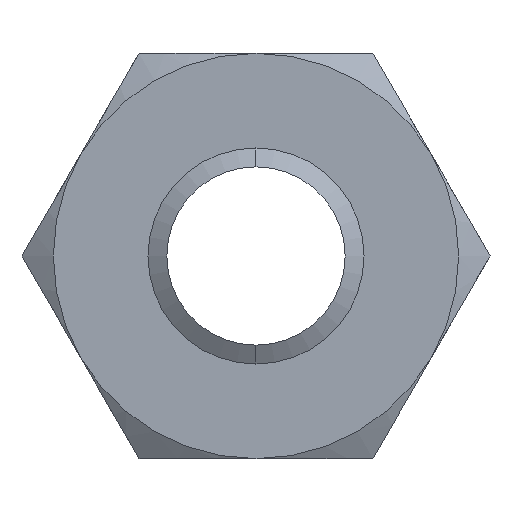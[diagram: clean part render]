
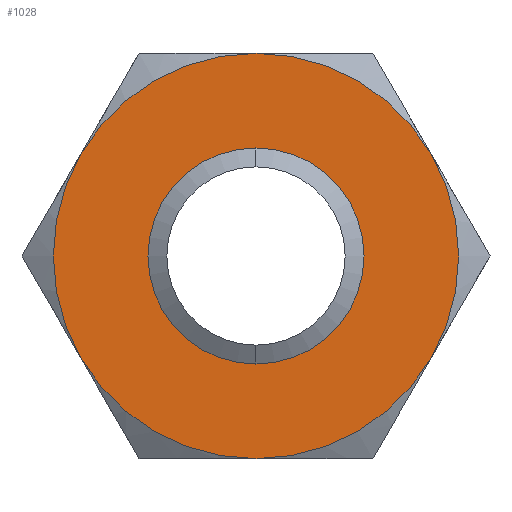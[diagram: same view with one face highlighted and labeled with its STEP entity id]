
A CAD part, front view. The second image highlights one B-rep face of the part: STEP entity #1028.
In plain terms, the highlighted planar face has unit normal (0, -1, 0).
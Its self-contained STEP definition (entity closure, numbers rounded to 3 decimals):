
#410 = CARTESIAN_POINT ( 'NONE',  ( -32.476, 0., 18.75 ) ) ;
#414 = CARTESIAN_POINT ( 'NONE',  ( 0., 0., -37.5 ) ) ;
#444 = DIRECTION ( 'NONE',  ( 0., 1., 0. ) ) ;
#445 = CARTESIAN_POINT ( 'NONE',  ( 0., 0., 0. ) ) ;
#446 = AXIS2_PLACEMENT_3D ( 'NONE', #445, #444, #506 ) ;
#447 = CIRCLE ( 'NONE', #446, 37.5 ) ;
#449 = CARTESIAN_POINT ( 'NONE',  ( 32.476, 0., 18.75 ) ) ;
#456 = DIRECTION ( 'NONE',  ( 0., 0., 1. ) ) ;
#457 = DIRECTION ( 'NONE',  ( 0., 1., 0. ) ) ;
#458 = CARTESIAN_POINT ( 'NONE',  ( 0., 0., 0. ) ) ;
#459 = AXIS2_PLACEMENT_3D ( 'NONE', #458, #457, #456 ) ;
#460 = CIRCLE ( 'NONE', #459, 37.5 ) ;
#461 = CARTESIAN_POINT ( 'NONE',  ( 0., 0., 37.5 ) ) ;
#472 = DIRECTION ( 'NONE',  ( 0., 0., 1. ) ) ;
#473 = DIRECTION ( 'NONE',  ( 0., 1., 0. ) ) ;
#474 = CARTESIAN_POINT ( 'NONE',  ( 0., 0., 0. ) ) ;
#475 = AXIS2_PLACEMENT_3D ( 'NONE', #474, #473, #472 ) ;
#476 = CIRCLE ( 'NONE', #475, 37.5 ) ;
#494 = CARTESIAN_POINT ( 'NONE',  ( 0., 0., -16.5 ) ) ;
#495 = DIRECTION ( 'NONE',  ( 0., 0., -1. ) ) ;
#496 = DIRECTION ( 'NONE',  ( 0., -1., 0. ) ) ;
#497 = CARTESIAN_POINT ( 'NONE',  ( 0., 0., 0. ) ) ;
#498 = AXIS2_PLACEMENT_3D ( 'NONE', #497, #496, #495 ) ;
#499 = CIRCLE ( 'NONE', #498, 16.5 ) ;
#504 = CARTESIAN_POINT ( 'NONE',  ( 0., 0., 16.5 ) ) ;
#506 = DIRECTION ( 'NONE',  ( 0., 0., 1. ) ) ;
#542 = DIRECTION ( 'NONE',  ( 0., 0., 1. ) ) ;
#543 = DIRECTION ( 'NONE',  ( 0., 1., 0. ) ) ;
#544 = CARTESIAN_POINT ( 'NONE',  ( 0., 0., 0. ) ) ;
#545 = AXIS2_PLACEMENT_3D ( 'NONE', #544, #543, #542 ) ;
#546 = CIRCLE ( 'NONE', #545, 37.5 ) ;
#550 = CARTESIAN_POINT ( 'NONE',  ( -32.476, 0., -18.75 ) ) ;
#551 = DIRECTION ( 'NONE',  ( 0., 0., 1. ) ) ;
#552 = DIRECTION ( 'NONE',  ( 0., 1., 0. ) ) ;
#553 = CARTESIAN_POINT ( 'NONE',  ( 0., 0., 0. ) ) ;
#554 = AXIS2_PLACEMENT_3D ( 'NONE', #553, #552, #551 ) ;
#555 = CIRCLE ( 'NONE', #554, 37.5 ) ;
#556 = DIRECTION ( 'NONE',  ( 0., 0., 1. ) ) ;
#557 = DIRECTION ( 'NONE',  ( 0., 1., 0. ) ) ;
#558 = CARTESIAN_POINT ( 'NONE',  ( 0., 0., 0. ) ) ;
#559 = AXIS2_PLACEMENT_3D ( 'NONE', #558, #557, #556 ) ;
#560 = CIRCLE ( 'NONE', #559, 37.5 ) ;
#561 = CARTESIAN_POINT ( 'NONE',  ( 32.476, 0., -18.75 ) ) ;
#634 = DIRECTION ( 'NONE',  ( 0., 0., -1. ) ) ;
#635 = DIRECTION ( 'NONE',  ( 0., -1., 0. ) ) ;
#636 = CARTESIAN_POINT ( 'NONE',  ( 0., 0., 0. ) ) ;
#637 = AXIS2_PLACEMENT_3D ( 'NONE', #636, #635, #634 ) ;
#638 = DIRECTION ( 'NONE',  ( 0., 0., 1. ) ) ;
#639 = DIRECTION ( 'NONE',  ( 0., 1., 0. ) ) ;
#640 = CARTESIAN_POINT ( 'NONE',  ( 21.651, 0., -37.5 ) ) ;
#641 = CIRCLE ( 'NONE', #637, 16.5 ) ;
#642 = AXIS2_PLACEMENT_3D ( 'NONE', #640, #639, #638 ) ;
#643 = PLANE ( 'NONE',  #642 ) ;
#644 = FACE_BOUND ( 'NONE', #1026, .T. ) ;
#645 = FACE_OUTER_BOUND ( 'NONE', #942, .T. ) ;
#932 = VERTEX_POINT ( 'NONE', #414 ) ;
#933 = VERTEX_POINT ( 'NONE', #410 ) ;
#934 = ORIENTED_EDGE ( 'NONE', *, *, #935, .F. ) ;
#935 = EDGE_CURVE ( 'NONE', #984, #933, #476, .T. ) ;
#942 = EDGE_LOOP ( 'NONE', ( #943, #949, #934, #985, #978, #982 ) ) ;
#943 = ORIENTED_EDGE ( 'NONE', *, *, #944, .F. ) ;
#944 = EDGE_CURVE ( 'NONE', #945, #948, #460, .T. ) ;
#945 = VERTEX_POINT ( 'NONE', #461 ) ;
#948 = VERTEX_POINT ( 'NONE', #449 ) ;
#949 = ORIENTED_EDGE ( 'NONE', *, *, #950, .F. ) ;
#950 = EDGE_CURVE ( 'NONE', #933, #945, #447, .T. ) ;
#956 = VERTEX_POINT ( 'NONE', #504 ) ;
#957 = EDGE_CURVE ( 'NONE', #956, #962, #499, .T. ) ;
#962 = VERTEX_POINT ( 'NONE', #494 ) ;
#978 = ORIENTED_EDGE ( 'NONE', *, *, #979, .F. ) ;
#979 = EDGE_CURVE ( 'NONE', #980, #932, #560, .T. ) ;
#980 = VERTEX_POINT ( 'NONE', #561 ) ;
#981 = EDGE_CURVE ( 'NONE', #948, #980, #555, .T. ) ;
#982 = ORIENTED_EDGE ( 'NONE', *, *, #981, .F. ) ;
#984 = VERTEX_POINT ( 'NONE', #550 ) ;
#985 = ORIENTED_EDGE ( 'NONE', *, *, #987, .F. ) ;
#987 = EDGE_CURVE ( 'NONE', #932, #984, #546, .T. ) ;
#1025 = ORIENTED_EDGE ( 'NONE', *, *, #1029, .F. ) ;
#1026 = EDGE_LOOP ( 'NONE', ( #1025, #1031 ) ) ;
#1028 = ADVANCED_FACE ( 'NONE', ( #645, #644 ), #643, .F. ) ;
#1029 = EDGE_CURVE ( 'NONE', #962, #956, #641, .T. ) ;
#1031 = ORIENTED_EDGE ( 'NONE', *, *, #957, .F. ) ;
